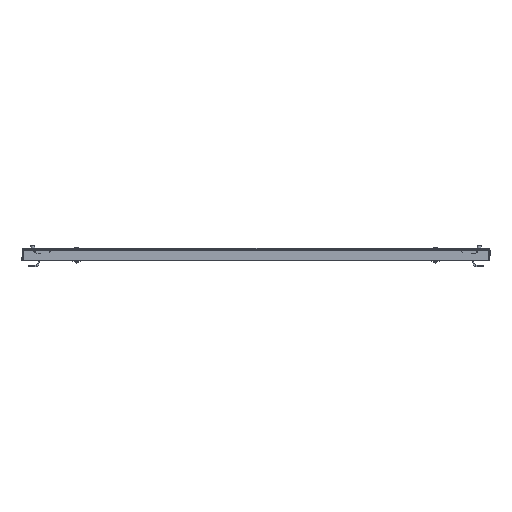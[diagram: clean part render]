
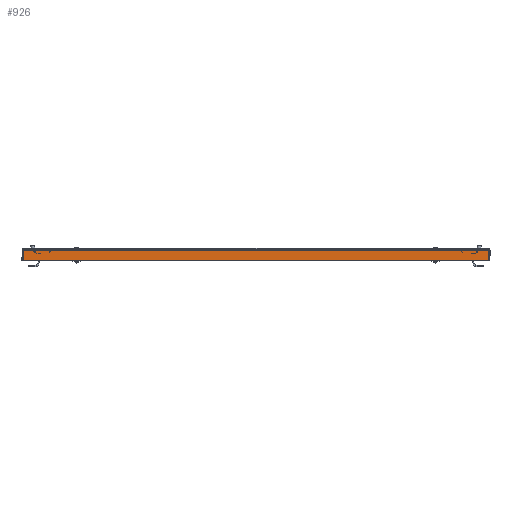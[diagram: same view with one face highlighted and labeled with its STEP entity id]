
A CAD part, front view. The second image highlights one B-rep face of the part: STEP entity #926.
In plain terms, the highlighted planar face has unit normal (0, -1, 0).
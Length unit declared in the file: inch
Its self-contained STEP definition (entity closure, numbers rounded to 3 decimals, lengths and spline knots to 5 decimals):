
#926 = ADVANCED_FACE ( 'NONE', ( #10705 ), #4668, .T. ) ;
#1445 = ORIENTED_EDGE ( 'NONE', *, *, #7682, .F. ) ;
#1500 = ORIENTED_EDGE ( 'NONE', *, *, #7688, .F. ) ;
#1637 = ORIENTED_EDGE ( 'NONE', *, *, #7687, .T. ) ;
#1642 = ORIENTED_EDGE ( 'NONE', *, *, #7679, .T. ) ;
#2176 = CARTESIAN_POINT ( 'NONE',  ( -13.6445, -42.1065, -0.685 ) ) ;
#2204 = CARTESIAN_POINT ( 'NONE',  ( 13.6445, -42.1065, -0.685 ) ) ;
#2383 = CARTESIAN_POINT ( 'NONE',  ( 13.6445, -42.1065, -0.095 ) ) ;
#3355 = VERTEX_POINT ( 'NONE', #2204 ) ;
#3428 = VERTEX_POINT ( 'NONE', #2176 ) ;
#3467 = VERTEX_POINT ( 'NONE', #2383 ) ;
#4661 = CARTESIAN_POINT ( 'NONE',  ( -13.7075, -42.1065, -0.055 ) ) ;
#4668 = PLANE ( 'NONE',  #7802 ) ;
#4744 = DIRECTION ( 'NONE',  ( 0., -1., 0. ) ) ;
#4745 = DIRECTION ( 'NONE',  ( 0., 0., -1. ) ) ;
#5826 = CARTESIAN_POINT ( 'NONE',  ( -13.7075, -42.1065, -0.095 ) ) ;
#5827 = DIRECTION ( 'NONE',  ( -1., 0., 0. ) ) ;
#5833 = CARTESIAN_POINT ( 'NONE',  ( -13.7075, -42.1065, -0.685 ) ) ;
#5834 = DIRECTION ( 'NONE',  ( -1., 0., 0. ) ) ;
#5841 = CARTESIAN_POINT ( 'NONE',  ( -13.6445, -42.1065, -0.095 ) ) ;
#5843 = DIRECTION ( 'NONE',  ( 0., 0., -1. ) ) ;
#5845 = CARTESIAN_POINT ( 'NONE',  ( 13.6445, -42.1065, -0.095 ) ) ;
#5846 = DIRECTION ( 'NONE',  ( 0., 0., -1. ) ) ;
#6302 = CARTESIAN_POINT ( 'NONE',  ( -13.6445, -42.1065, -0.095 ) ) ;
#7679 = EDGE_CURVE ( 'NONE', #3467, #8642, #11147, .T. ) ;
#7682 = EDGE_CURVE ( 'NONE', #3355, #3428, #11194, .T. ) ;
#7687 = EDGE_CURVE ( 'NONE', #8642, #3428, #11200, .T. ) ;
#7688 = EDGE_CURVE ( 'NONE', #3467, #3355, #11218, .T. ) ;
#7802 = AXIS2_PLACEMENT_3D ( 'NONE', #4661, #4744, #4745 ) ;
#8642 = VERTEX_POINT ( 'NONE', #6302 ) ;
#10705 = FACE_OUTER_BOUND ( 'NONE', #11556, .T. ) ;
#11147 = LINE ( 'NONE', #5826, #11176 ) ;
#11176 = VECTOR ( 'NONE', #5827, 39.37008 ) ;
#11194 = LINE ( 'NONE', #5833, #11196 ) ;
#11196 = VECTOR ( 'NONE', #5834, 39.37008 ) ;
#11200 = LINE ( 'NONE', #5841, #11214 ) ;
#11214 = VECTOR ( 'NONE', #5843, 39.37008 ) ;
#11218 = LINE ( 'NONE', #5845, #11220 ) ;
#11220 = VECTOR ( 'NONE', #5846, 39.37008 ) ;
#11556 = EDGE_LOOP ( 'NONE', ( #1642, #1637, #1445, #1500 ) ) ;
